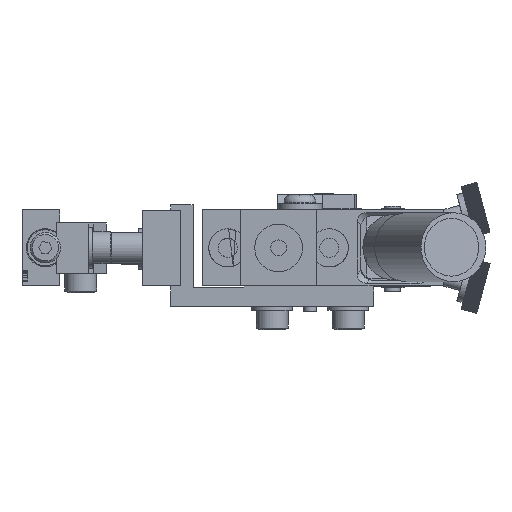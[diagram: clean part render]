
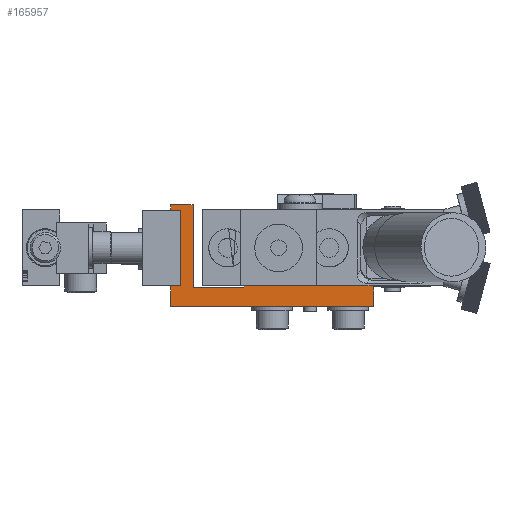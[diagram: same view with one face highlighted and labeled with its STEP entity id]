
A CAD part, left-side view. The second image highlights one B-rep face of the part: STEP entity #165957.
In plain terms, the highlighted planar face has unit normal (-1, 0, 0).
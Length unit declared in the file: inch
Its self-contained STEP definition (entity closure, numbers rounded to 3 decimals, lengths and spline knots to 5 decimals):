
#9792=CARTESIAN_POINT('',(-0.4995,1.8755,0.));
#9793=VERTEX_POINT('',#9792);
#9859=CARTESIAN_POINT('',(-0.4995,1.8755,0.745));
#9860=VERTEX_POINT('',#9859);
#10551=CARTESIAN_POINT('',(-0.4995,1.8755,0.));
#10552=DIRECTION('',(0.0,0.0,1.0));
#10553=VECTOR('',#10552,0.745);
#10554=LINE('',#10551,#10553);
#10555=EDGE_CURVE('',#9793,#9860,#10554,.T.);
#165507=CARTESIAN_POINT('',(-0.4995,1.1555,0.));
#165508=VERTEX_POINT('',#165507);
#165515=CARTESIAN_POINT('',(-0.4995,-0.1245,0.));
#165516=VERTEX_POINT('',#165515);
#165517=CARTESIAN_POINT('',(-0.4995,1.1555,0.));
#165518=DIRECTION('',(0.0,-1.0,0.0));
#165519=VECTOR('',#165518,1.28);
#165520=LINE('',#165517,#165519);
#165521=EDGE_CURVE('',#165508,#165516,#165520,.T.);
#165888=CARTESIAN_POINT('',(-0.4995,0.76361,-0.10189));
#165889=DIRECTION('',(1.0,0.0,0.0));
#165890=DIRECTION('',(0.0,-1.0,0.0));
#165891=AXIS2_PLACEMENT_3D('',#165888,#165889,#165890);
#165892=PLANE('',#165891);
#165893=CARTESIAN_POINT('',(-0.4995,1.8755,-0.2));
#165894=VERTEX_POINT('',#165893);
#165895=CARTESIAN_POINT('',(-0.4995,-0.1245,-0.2));
#165896=VERTEX_POINT('',#165895);
#165897=CARTESIAN_POINT('',(-0.4995,1.8755,-0.2));
#165898=DIRECTION('',(0.0,-1.0,0.0));
#165899=VECTOR('',#165898,2.);
#165900=LINE('',#165897,#165899);
#165901=EDGE_CURVE('',#165894,#165896,#165900,.T.);
#165902=ORIENTED_EDGE('',*,*,#165901,.T.);
#165903=CARTESIAN_POINT('',(-0.4995,-0.1245,-0.2));
#165904=DIRECTION('',(0.0,0.0,1.0));
#165905=VECTOR('',#165904,0.2);
#165906=LINE('',#165903,#165905);
#165907=EDGE_CURVE('',#165896,#165516,#165906,.T.);
#165908=ORIENTED_EDGE('',*,*,#165907,.T.);
#165909=ORIENTED_EDGE('',*,*,#165521,.F.);
#165910=CARTESIAN_POINT('',(-0.4995,1.1555,-0.015));
#165911=VERTEX_POINT('',#165910);
#165912=CARTESIAN_POINT('',(-0.4995,1.1555,0.));
#165913=DIRECTION('',(0.0,0.0,-1.0));
#165914=VECTOR('',#165913,0.015);
#165915=LINE('',#165912,#165914);
#165916=EDGE_CURVE('',#165508,#165911,#165915,.T.);
#165917=ORIENTED_EDGE('',*,*,#165916,.T.);
#165918=CARTESIAN_POINT('',(-0.4995,1.6555,-0.015));
#165919=VERTEX_POINT('',#165918);
#165920=CARTESIAN_POINT('',(-0.4995,1.1555,-0.015));
#165921=DIRECTION('',(0.0,1.0,0.0));
#165922=VECTOR('',#165921,0.5);
#165923=LINE('',#165920,#165922);
#165924=EDGE_CURVE('',#165911,#165919,#165923,.T.);
#165925=ORIENTED_EDGE('',*,*,#165924,.T.);
#165926=CARTESIAN_POINT('',(-0.4995,1.6555,0.8));
#165927=VERTEX_POINT('',#165926);
#165928=CARTESIAN_POINT('',(-0.4995,1.6555,-0.015));
#165929=DIRECTION('',(0.0,0.0,1.0));
#165930=VECTOR('',#165929,0.815);
#165931=LINE('',#165928,#165930);
#165932=EDGE_CURVE('',#165919,#165927,#165931,.T.);
#165933=ORIENTED_EDGE('',*,*,#165932,.T.);
#165934=CARTESIAN_POINT('',(-0.4995,1.8755,0.8));
#165935=VERTEX_POINT('',#165934);
#165936=CARTESIAN_POINT('',(-0.4995,1.6555,0.8));
#165937=DIRECTION('',(0.0,1.0,0.0));
#165938=VECTOR('',#165937,0.22);
#165939=LINE('',#165936,#165938);
#165940=EDGE_CURVE('',#165927,#165935,#165939,.T.);
#165941=ORIENTED_EDGE('',*,*,#165940,.T.);
#165942=CARTESIAN_POINT('',(-0.4995,1.8755,0.8));
#165943=DIRECTION('',(0.0,0.0,-1.0));
#165944=VECTOR('',#165943,0.055);
#165945=LINE('',#165942,#165944);
#165946=EDGE_CURVE('',#165935,#9860,#165945,.T.);
#165947=ORIENTED_EDGE('',*,*,#165946,.T.);
#165948=ORIENTED_EDGE('',*,*,#10555,.F.);
#165949=CARTESIAN_POINT('',(-0.4995,1.8755,0.));
#165950=DIRECTION('',(0.0,0.0,-1.0));
#165951=VECTOR('',#165950,0.2);
#165952=LINE('',#165949,#165951);
#165953=EDGE_CURVE('',#9793,#165894,#165952,.T.);
#165954=ORIENTED_EDGE('',*,*,#165953,.T.);
#165955=EDGE_LOOP('',(#165902,#165908,#165909,#165917,#165925,#165933,#165941,#165947,#165948,#165954));
#165956=FACE_OUTER_BOUND('',#165955,.T.);
#165957=ADVANCED_FACE('',(#165956),#165892,.F.);
